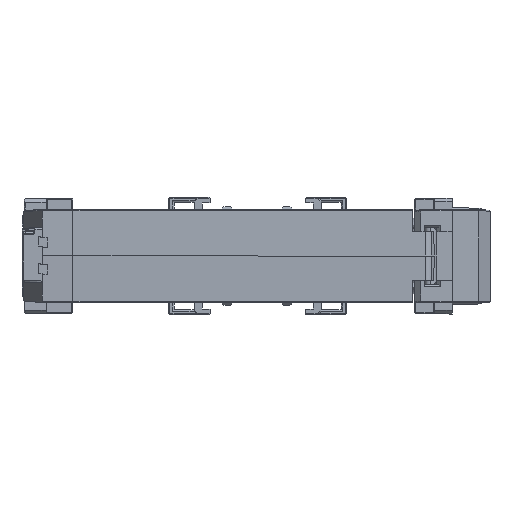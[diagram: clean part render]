
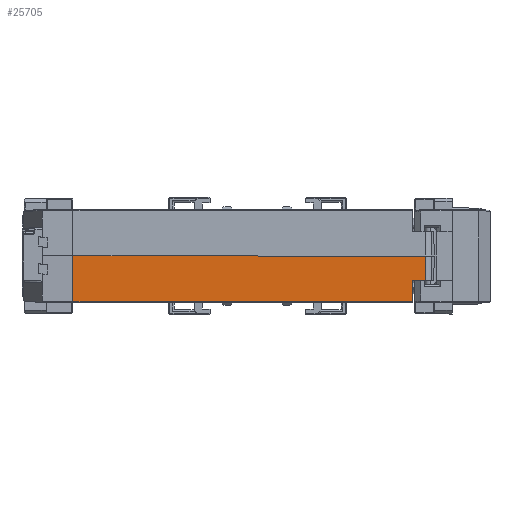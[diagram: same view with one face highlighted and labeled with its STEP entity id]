
A CAD part, left-side view. The second image highlights one B-rep face of the part: STEP entity #25705.
In plain terms, the highlighted planar face has unit normal (-1, 0, -0.018).
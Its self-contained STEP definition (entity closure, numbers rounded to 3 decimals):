
#1606 = ORIENTED_EDGE ( 'NONE', *, *, #115018, .T. ) ;
#2093 = VERTEX_POINT ( 'NONE', #193807 ) ;
#2475 = LINE ( 'NONE', #204893, #30620 ) ;
#6612 = CARTESIAN_POINT ( 'NONE',  ( -87., -6., 0. ) ) ;
#10895 = VECTOR ( 'NONE', #112550, 1000. ) ;
#23887 = DIRECTION ( 'NONE',  ( 0., -1., 0. ) ) ;
#24932 = EDGE_CURVE ( 'NONE', #88136, #191602, #205321, .T. ) ;
#25705 = ADVANCED_FACE ( 'NONE', ( #106677 ), #216224, .T. ) ;
#30620 = VECTOR ( 'NONE', #23887, 1000. ) ;
#36097 = DIRECTION ( 'NONE',  ( -0.017, 0., 1. ) ) ;
#37275 = CARTESIAN_POINT ( 'NONE',  ( -87., -7.31, 0. ) ) ;
#41545 = VECTOR ( 'NONE', #105573, 1000. ) ;
#43047 = EDGE_CURVE ( 'NONE', #88136, #198954, #117444, .T. ) ;
#44407 = ORIENTED_EDGE ( 'NONE', *, *, #169292, .F. ) ;
#49079 = DIRECTION ( 'NONE',  ( 0., 1., 0. ) ) ;
#50704 = CARTESIAN_POINT ( 'NONE',  ( -87., -7.31, 0. ) ) ;
#68352 = AXIS2_PLACEMENT_3D ( 'NONE', #182812, #165081, #197170 ) ;
#76755 = CARTESIAN_POINT ( 'NONE',  ( -87., 170., 0. ) ) ;
#84906 = CARTESIAN_POINT ( 'NONE',  ( -86.599, -6., -22.991 ) ) ;
#88136 = VERTEX_POINT ( 'NONE', #210158 ) ;
#105573 = DIRECTION ( 'NONE',  ( -0.017, 0., 1. ) ) ;
#106677 = FACE_OUTER_BOUND ( 'NONE', #168033, .T. ) ;
#107622 = LINE ( 'NONE', #37275, #220808 ) ;
#112550 = DIRECTION ( 'NONE',  ( 0.017, 0., -1. ) ) ;
#113484 = CARTESIAN_POINT ( 'NONE',  ( -86.599, -1., -22.991 ) ) ;
#115018 = EDGE_CURVE ( 'NONE', #205144, #2093, #218670, .T. ) ;
#117444 = LINE ( 'NONE', #6612, #213493 ) ;
#131803 = VECTOR ( 'NONE', #49079, 1000. ) ;
#165081 = DIRECTION ( 'NONE',  ( -1., 0., -0.017 ) ) ;
#168033 = EDGE_LOOP ( 'NONE', ( #1606, #213799, #176962, #209499, #227400, #44407 ) ) ;
#169292 = EDGE_CURVE ( 'NONE', #205144, #191602, #197945, .T. ) ;
#171265 = CARTESIAN_POINT ( 'NONE',  ( -86.786, -7.31, -12.25 ) ) ;
#176962 = ORIENTED_EDGE ( 'NONE', *, *, #205786, .T. ) ;
#182812 = CARTESIAN_POINT ( 'NONE',  ( -87., -6., 0. ) ) ;
#190039 = DIRECTION ( 'NONE',  ( 0., -1., 0. ) ) ;
#191602 = VERTEX_POINT ( 'NONE', #211965 ) ;
#193807 = CARTESIAN_POINT ( 'NONE',  ( -86.786, -1., -12.25 ) ) ;
#197170 = DIRECTION ( 'NONE',  ( -0.017, 0., 1. ) ) ;
#197945 = LINE ( 'NONE', #84906, #131803 ) ;
#198954 = VERTEX_POINT ( 'NONE', #50704 ) ;
#202726 = VERTEX_POINT ( 'NONE', #171265 ) ;
#204893 = CARTESIAN_POINT ( 'NONE',  ( -86.786, -7.31, -12.25 ) ) ;
#205144 = VERTEX_POINT ( 'NONE', #113484 ) ;
#205321 = LINE ( 'NONE', #76755, #10895 ) ;
#205786 = EDGE_CURVE ( 'NONE', #202726, #198954, #107622, .T. ) ;
#209499 = ORIENTED_EDGE ( 'NONE', *, *, #43047, .F. ) ;
#210158 = CARTESIAN_POINT ( 'NONE',  ( -87., 170., 0. ) ) ;
#211965 = CARTESIAN_POINT ( 'NONE',  ( -86.599, 170., -22.991 ) ) ;
#213493 = VECTOR ( 'NONE', #190039, 1000. ) ;
#213799 = ORIENTED_EDGE ( 'NONE', *, *, #219130, .T. ) ;
#216224 = PLANE ( 'NONE',  #68352 ) ;
#218670 = LINE ( 'NONE', #234207, #41545 ) ;
#219130 = EDGE_CURVE ( 'NONE', #2093, #202726, #2475, .T. ) ;
#220808 = VECTOR ( 'NONE', #36097, 1000. ) ;
#227400 = ORIENTED_EDGE ( 'NONE', *, *, #24932, .T. ) ;
#234207 = CARTESIAN_POINT ( 'NONE',  ( -86.599, -1., -22.991 ) ) ;
